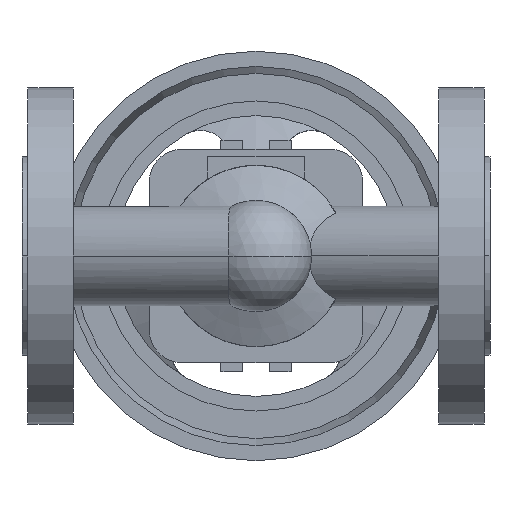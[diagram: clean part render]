
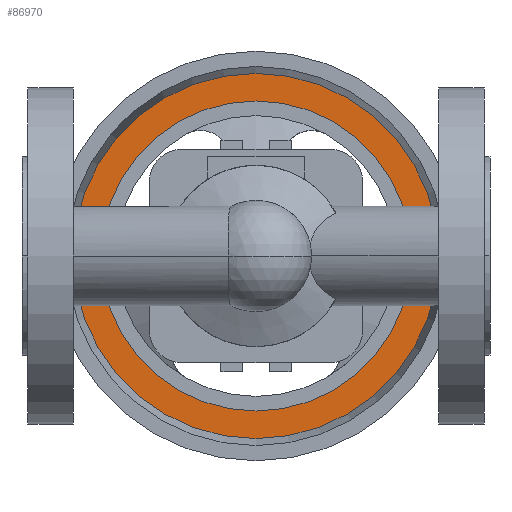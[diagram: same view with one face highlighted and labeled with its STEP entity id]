
A CAD part, front view. The second image highlights one B-rep face of the part: STEP entity #86970.
In plain terms, the highlighted planar face has unit normal (0, -1, 0).
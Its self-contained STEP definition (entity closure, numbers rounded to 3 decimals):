
#86420=CARTESIAN_POINT('',(17.588,233.8,0.));
#86430=VERTEX_POINT('',#86420);
#86510=CARTESIAN_POINT('',(142.412,233.8,0.))
;
#86520=VERTEX_POINT('',#86510);
#86550=CARTESIAN_POINT('',(80.,233.8,0.));
#86560=DIRECTION('',(0.,1.,0.));
#86570=DIRECTION('',(-1.,0.,0.));
#86580=AXIS2_PLACEMENT_3D('',#86550,#86560,#86570);
#86590=CIRCLE('',#86580,62.412);
#86600=EDGE_CURVE('',#86430,#86520,#86590,.T.);
#86720=CARTESIAN_POINT('',(22.294,233.8,0.))
;
#86730=DIRECTION('',(0.,-1.,0.));
#86740=DIRECTION('',(1.,0.,0.));
#86750=AXIS2_PLACEMENT_3D('',#86720,#86730,#86740);
#86760=PLANE('',#86750);
#86770=EDGE_CURVE('',#86520,#86430,#86590,.T.);
#86780=ORIENTED_EDGE('',*,*,#86770,.F.);
#86790=ORIENTED_EDGE('',*,*,#86600,.F.);
#86800=EDGE_LOOP('',(#86790,#86780));
#86810=FACE_OUTER_BOUND('',#86800,.T.);
#86820=CARTESIAN_POINT('',(80.,233.8,0.));
#86830=DIRECTION('',(0.,1.,0.));
#86840=DIRECTION('',(-1.,0.,0.));
#86850=AXIS2_PLACEMENT_3D('',#86820,#86830,#86840);
#86860=CIRCLE('',#86850,53.);
#86870=CARTESIAN_POINT('',(27.,233.8,0.));
#86880=VERTEX_POINT('',#86870);
#86890=CARTESIAN_POINT('',(133.,233.8,0.));
#86900=VERTEX_POINT('',#86890);
#86910=EDGE_CURVE('',#86880,#86900,#86860,.T.);
#86920=ORIENTED_EDGE('',*,*,#86910,.T.);
#86930=EDGE_CURVE('',#86900,#86880,#86860,.T.);
#86940=ORIENTED_EDGE('',*,*,#86930,.T.);
#86950=EDGE_LOOP('',(#86940,#86920));
#86960=FACE_BOUND('',#86950,.T.);
#86970=ADVANCED_FACE('',(#86810,#86960),#86760,.T.);
